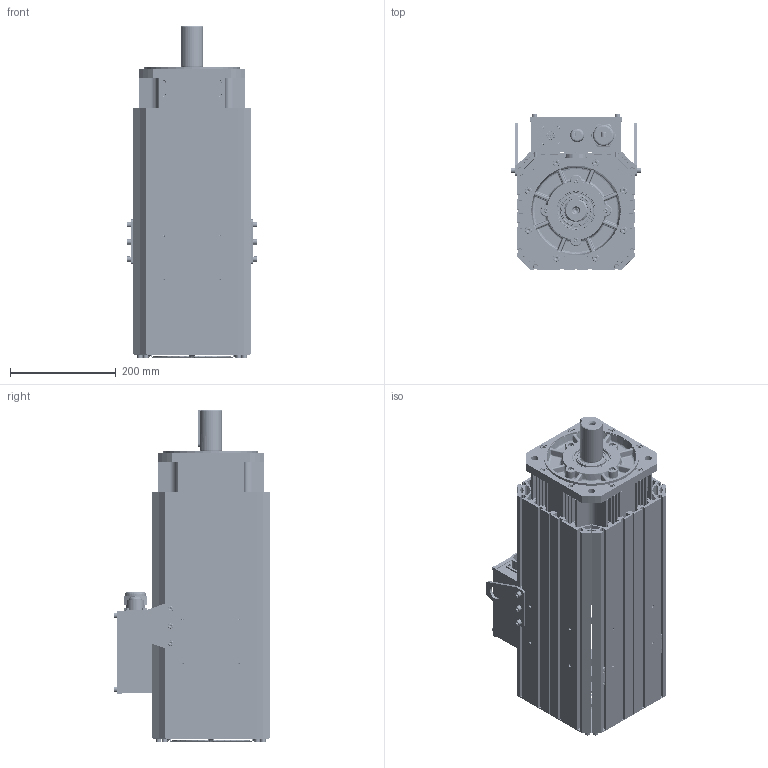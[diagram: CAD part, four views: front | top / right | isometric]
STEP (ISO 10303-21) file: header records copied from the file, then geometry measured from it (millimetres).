
FILE_DESCRIPTION (( 'STEP AP214' ), '1' );
FILE_NAME ('VM7-M20D-01115-D2FNH.STEP', '2022-04-02T01:48:12', ( '' ), ( '' ), 'SwSTEP 2.0', 'SolidWorks 2014', '' );
FILE_SCHEMA (( 'AUTOMOTIVE_DESIGN' ));
Length unit declared in the file: millimetre
Products named in the file (3): 翋极ㄗVM7-M20Dㄘ; VM7-M20D-01115-D2FNH; 俋褲ㄗVM7-M20Dㄘ
Assembly tree (2 placements, depth 2):
  VM7-M20D-01115-D2FNH
    翋极ㄗVM7-M20Dㄘ
    俋褲ㄗVM7-M20Dㄘ
Bounding box: 246.2 x 294.7 x 628 mm (x, y, z)
Volume: 2134379.2 mm3; surface area: 2848075.4 mm2
Topology: 45 solids, 183 shells, 5660 faces, 14472 edges, 9117 vertices
Faces by surface type: plane 3221, cylinder 1323, cone 587, bspline 529
Entity records: 187119 total; most frequent: CARTESIAN_POINT 50233, ORIENTED_EDGE 28442, DIRECTION 27688, EDGE_CURVE 14230, AXIS2_PLACEMENT_3D 9527, VERTEX_POINT 9117, LINE 8634, VECTOR 8634
